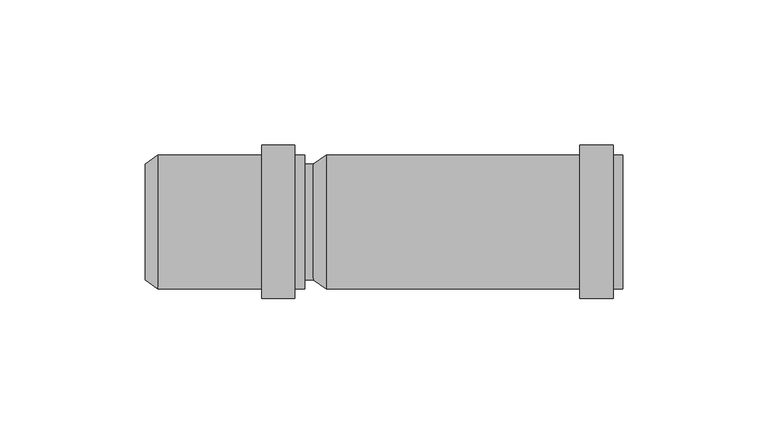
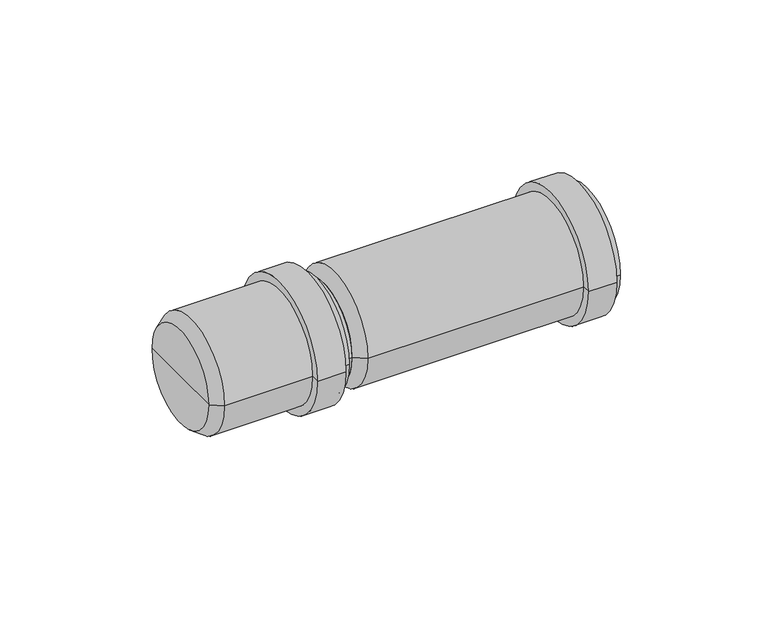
"""IFC4 building model written with IfcOpenShell, lengths in millimetres: pipe fitting geometry, pf_HTL : pf_HTL."""

import ifcopenshell
import ifcopenshell.guid

model = None  # the IFC model being written
_history = None  # IfcOwnerHistory: only IFC2X3 demands one
_inside = {}  # id of a spatial element -> (the spatial element, [elements in it])
_under = {}  # id of a project, library or spatial element -> (it, [spatial elements below it])
_declared = {}  # id of a project -> (the project, [libraries it declares])
_typed = {}  # id of a type object -> (the type object, [elements of that type])
_made_of = {}  # id of a material, layer set ... -> (it, [elements and type objects made of it])


def new_model(schema):
    """Start an empty IFC model of exactly this schema.

    Asked for "IFC4X3", IfcOpenShell would pick the latest addendum, in which some entities
    have other attributes; the version numbers below select the first issue.
    IFC2X3 requires an IfcOwnerHistory on every rooted entity: one is made here for all.
    """
    global model, _history
    if schema == "IFC4X3":
        model = ifcopenshell.file(schema_version=(4, 3, 0, 0))
    else:
        model = ifcopenshell.file(schema=schema)
    _inside.clear()
    _under.clear()
    _declared.clear()
    _typed.clear()
    _made_of.clear()
    _history = None
    if model.schema == "IFC2X3":
        org = make("IfcOrganization", Name="unknown")
        user = make(
            "IfcPersonAndOrganization",
            ThePerson=make("IfcPerson", FamilyName="unknown"),
            TheOrganization=org,
        )
        app = make(
            "IfcApplication",
            ApplicationDeveloper=org,
            Version="unknown",
            ApplicationFullName="unknown",
            ApplicationIdentifier="unknown",
        )
        _history = make(
            "IfcOwnerHistory",
            OwningUser=user,
            OwningApplication=app,
            ChangeAction="ADDED",
            CreationDate=0,
        )
    return model


def make(cls, **values):
    """One entity of the class cls with the attributes given. An attribute that is None is left unset."""
    return model.create_entity(
        cls, **{name: value for name, value in values.items() if value is not None}
    )


def rooted(cls, **values):
    """An entity with a GlobalId (a new one), such as an element, a storey or a relation."""
    return make(cls, GlobalId=ifcopenshell.guid.new(), OwnerHistory=_history, **values)


def si_unit(unit_type, name, prefix=None):
    """IfcSIUnit, for example si_unit("LENGTHUNIT", "METRE", prefix="MILLI")."""
    return make("IfcSIUnit", UnitType=unit_type, Prefix=prefix, Name=name)


def assignment(units):
    """IfcUnitAssignment: the units of a project."""
    return None if units is None else make("IfcUnitAssignment", Units=units)


def point(xyz):
    """IfcCartesianPoint."""
    return None if xyz is None else make("IfcCartesianPoint", Coordinates=xyz)


def direction(xyz):
    """IfcDirection."""
    return None if xyz is None else make("IfcDirection", DirectionRatios=xyz)


def frame(location, z_axis=None, x_axis=None):
    """IfcAxis2Placement3D, a coordinate frame: its origin and axes. An axis left out is left unset."""
    return make(
        "IfcAxis2Placement3D",
        Location=point(location),
        Axis=direction(z_axis),
        RefDirection=direction(x_axis),
    )


def frame_2d(location, x_axis=None):
    """IfcAxis2Placement2D, a coordinate frame in the plane: its origin and x axis."""
    return make(
        "IfcAxis2Placement2D", Location=point(location), RefDirection=direction(x_axis)
    )


def origin():
    """The frame at (0, 0, 0) with its axes left unset."""
    return frame((0.0, 0.0, 0.0))


def origin_2d():
    """The frame at (0, 0) in the plane with its x axis left unset."""
    return frame_2d((0.0, 0.0))


def place(relative_to, where):
    """IfcLocalPlacement: puts the frame where relative to a parent placement (None: the world)."""
    return make(
        "IfcLocalPlacement", PlacementRelTo=relative_to, RelativePlacement=where
    )


def context(
    kind, dimensions, precision=None, world=None, true_north=None, identifier=None
):
    """IfcGeometricRepresentationContext, for example the 3D "Model" context."""
    return make(
        "IfcGeometricRepresentationContext",
        ContextIdentifier=identifier,
        ContextType=kind,
        CoordinateSpaceDimension=dimensions,
        Precision=precision,
        WorldCoordinateSystem=world,
        TrueNorth=true_north,
    )


def project(units=None, contexts=None):
    """IfcProject with its units and contexts."""
    return rooted(
        "IfcProject",
        Name="project",
        RepresentationContexts=contexts,
        UnitsInContext=assignment(units),
    )


def spatial(cls, under=None, at=None, **own):
    """A site, building, storey or space (cls), placed at a placement, below another one or the project."""
    s = rooted(cls, ObjectPlacement=at, **own)
    if under is not None:
        _under.setdefault(under.id(), (under, []))[1].append(s)
    return s


def polyline(points):
    """IfcPolyline through the points."""
    return make("IfcPolyline", Points=[point(p) for p in points])


def circle_curve(where, radius):
    """IfcCircle in the frame where."""
    return make("IfcCircle", Position=where, Radius=radius)


def trimmed(basis, trim1, trim2, sense, master):
    """IfcTrimmedCurve: the piece of a basis curve between two trims."""
    return make(
        "IfcTrimmedCurve",
        BasisCurve=basis,
        Trim1=trim1,
        Trim2=trim2,
        SenseAgreement=sense,
        MasterRepresentation=master,
    )


def segment(curve, same_sense, transition):
    """IfcCompositeCurveSegment."""
    return make(
        "IfcCompositeCurveSegment",
        Transition=transition,
        SameSense=same_sense,
        ParentCurve=curve,
    )


def composite_curve(segments, self_intersect=None):
    """IfcCompositeCurve: segments joined end to end."""
    return make("IfcCompositeCurve", Segments=segments, SelfIntersect=self_intersect)


def outline(outer, holes=None, kind="AREA"):
    """IfcArbitraryClosedProfileDef: a profile drawn as a closed curve; with holes, ...WithVoids."""
    if holes is None:
        return make("IfcArbitraryClosedProfileDef", ProfileType=kind, OuterCurve=outer)
    return make(
        "IfcArbitraryProfileDefWithVoids",
        ProfileType=kind,
        OuterCurve=outer,
        InnerCurves=holes,
    )


def extrude(swept, where, along, depth):
    """IfcExtrudedAreaSolid: the profile swept, set in the frame where, extruded along a direction by depth."""
    return make(
        "IfcExtrudedAreaSolid",
        SweptArea=swept,
        Position=where,
        ExtrudedDirection=direction(along),
        Depth=depth,
    )


def shape(context_of_items, identifier, shape_type, items):
    """IfcShapeRepresentation: the items that make up one representation, for example the "Body"."""
    return make(
        "IfcShapeRepresentation",
        ContextOfItems=context_of_items,
        RepresentationIdentifier=identifier,
        RepresentationType=shape_type,
        Items=items,
    )


def source(mapping_origin, context_of_items, identifier, shape_type, items):
    """IfcRepresentationMap: a shape defined once, which mapped items show again and again."""
    return make(
        "IfcRepresentationMap",
        MappingOrigin=mapping_origin,
        MappedRepresentation=shape(context_of_items, identifier, shape_type, items),
    )


def transform(
    local_origin,
    x_axis=None,
    y_axis=None,
    z_axis=None,
    scale=None,
    scale2=None,
    scale3=None,
    uniform=True,
):
    """IfcCartesianTransformationOperator3D, or its non-uniform kind. x_axis, y_axis, z_axis: its Axis1, 2, 3."""
    if uniform:
        return make(
            "IfcCartesianTransformationOperator3D",
            Axis1=direction(x_axis),
            Axis2=direction(y_axis),
            LocalOrigin=point(local_origin),
            Scale=scale,
            Axis3=direction(z_axis),
        )
    return make(
        "IfcCartesianTransformationOperator3DnonUniform",
        Axis1=direction(x_axis),
        Axis2=direction(y_axis),
        LocalOrigin=point(local_origin),
        Scale=scale,
        Axis3=direction(z_axis),
        Scale2=scale2,
        Scale3=scale3,
    )


def mapped(mapping_source, mapping_target):
    """IfcMappedItem: shows the shape of a source again, moved by a transform."""
    return make(
        "IfcMappedItem", MappingSource=mapping_source, MappingTarget=mapping_target
    )


def made_of(thing, what):
    """Note that an element or type object is made of a material, layer set ...; save() writes the relation."""
    if what is not None:
        _made_of.setdefault(what.id(), (what, []))[1].append(thing)
    return thing


def element(
    cls,
    number,
    at=None,
    inside=None,
    cuts=None,
    type_object=None,
    material=None,
    context=None,
    identifier="Body",
    shape_type=None,
    held_by="IfcProductDefinitionShape",
    body=None,
    shapes=None,
    **own,
):
    """One element of the class cls, such as IfcWall. Its Tag is "e" and its number.

    at: its placement. inside: the storey or other place that contains it. cuts: it is an
    opening in that element (IfcRelVoidsElement). A single representation is given by context,
    identifier, shape_type and body (its items); several are given by shapes. held_by: the class
    of the entity that holds the representations. save() writes the other relations.
    """
    e = rooted(cls, Tag="e%d" % number, ObjectPlacement=at, **own)
    if body is not None:
        shapes = [shape(context, identifier, shape_type, body)]
    if shapes is not None:
        e.Representation = make(held_by, Representations=shapes)
    if inside is not None:
        _inside.setdefault(inside.id(), (inside, []))[1].append(e)
    if cuts is not None:
        rooted(
            "IfcRelVoidsElement", RelatingBuildingElement=cuts, RelatedOpeningElement=e
        )
    if type_object is not None:
        _typed.setdefault(type_object.id(), (type_object, []))[1].append(e)
    return made_of(e, material)


def aggregate(whole, parts):
    """IfcRelAggregates: a whole, such as a stair, and the parts it consists of."""
    return rooted("IfcRelAggregates", RelatingObject=whole, RelatedObjects=parts)


def save(model, path):
    """Write the relations noted so far, then the file.

    IfcRelAggregates (storeys below a building ...), IfcRelContainedInSpatialStructure (elements
    in a storey), IfcRelDefinesByType, IfcRelAssociatesMaterial and IfcRelDeclares: one each for
    every whole, place, type object, material and project.
    """
    for whole, parts in _under.values():
        aggregate(whole, parts)
    for where, things in _inside.values():
        rooted(
            "IfcRelContainedInSpatialStructure",
            RelatedElements=things,
            RelatingStructure=where,
        )
    for kind, things in _typed.values():
        rooted("IfcRelDefinesByType", RelatedObjects=things, RelatingType=kind)
    for what, things in _made_of.values():
        rooted("IfcRelAssociatesMaterial", RelatedObjects=things, RelatingMaterial=what)
    for by, libraries in _declared.values():
        rooted("IfcRelDeclares", RelatingContext=by, RelatedDefinitions=libraries)
    model.write(path)


def plane_surface(at):
    """IfcPlane: the flat surface through the origin of the frame at, square to its z axis."""
    return make("IfcPlane", Position=at)


def cylinder_surface(at, radius):
    """IfcCylindricalSurface: all points at the distance radius from the z axis of the frame at."""
    return make("IfcCylindricalSurface", Position=at, Radius=radius)


def revolved_surface(curve, axis_point, axis_direction):
    """IfcSurfaceOfRevolution: the curve turned about the line through axis_point along axis_direction."""
    return make(
        "IfcSurfaceOfRevolution",
        SweptCurve=make("IfcArbitraryOpenProfileDef", ProfileType="CURVE", Curve=curve),
        AxisPosition=make("IfcAxis1Placement", Location=point(axis_point), Axis=direction(axis_direction)),
    )


def advanced_brep(points, edges, surfaces, faces):
    """IfcAdvancedBrep: a solid bounded by faces that lie on surfaces and meet in shared edges.

    An edge is (start, end): straight between two places in points (the first is 0);
    or (start, end, curve); or (start, end, curve, False) where it runs against its curve.
    A face is (place in surfaces, loops), or (place, loops, False) where it looks against
    its surface's normal. A loop lists edges by number (the first is 1), with a minus sign
    where the edge is run from its end to its start. The first loop is the outer one.
    """
    corners = [point(p) for p in points]
    vertices = [make("IfcVertexPoint", VertexGeometry=c) for c in corners]
    made = []
    for start, end, *more in edges:
        made.append(
            make(
                "IfcEdgeCurve",
                EdgeStart=vertices[start],
                EdgeEnd=vertices[end],
                EdgeGeometry=more[0] if more else make("IfcPolyline", Points=[corners[start], corners[end]]),
                SameSense=more[1] if len(more) > 1 else True,
            )
        )
    hull = []
    for where, loops, *sense in faces:
        bounds = []
        for j, loop in enumerate(loops):
            ring = [make("IfcOrientedEdge", EdgeElement=made[abs(k) - 1], Orientation=k > 0) for k in loop]
            bounds.append(
                make(
                    "IfcFaceOuterBound" if j == 0 else "IfcFaceBound",
                    Bound=make("IfcEdgeLoop", EdgeList=ring),
                    Orientation=True,
                )
            )
        hull.append(make("IfcAdvancedFace", Bounds=bounds, FaceSurface=surfaces[where], SameSense=sense[0] if sense else True))
    return make("IfcAdvancedBrep", Outer=make("IfcClosedShell", CfsFaces=hull))


def pipe_fitting_f05a0327(model_context):
    return source(origin(), model_context, "Body", "SolidModel", [
        advanced_brep(
        [(0.0, -20.0, 0.0), (0.0, 20.0, 0.0), (4.4, 23.1, 0.0), (4.4, -23.1, 0.0), (0.0, 0.0, 0.0), (106.6, -23.1, 0.0), (106.6, 23.1, 0.0), (106.6, 20.0, 0.0), (106.6, -20.0, 0.0), (103.2, -23.1, 0.0), (103.2, 23.1, 0.0), (103.2, -26.5, 0.0), (103.2, 26.5, 0.0), (91.8, -26.5, 0.0), (91.8, 26.5, 0.0), (91.8, -23.1, 0.0), (91.8, 23.1, 0.0), (4.4, -20.0, 0.0), (4.4, 20.0, 0.0), (4.4, 0.0, 0.0)],
        [
            (0, 1, circle_curve(frame((0.0, 0.0, 0.0), z_axis=(1.0, 0.0, 0.0), x_axis=(0.0, 1.0, 0.0)), 20.0)),
            (1, 2),
            (2, 3, circle_curve(frame((4.4, 0.0, 0.0), z_axis=(-1.0, 0.0, 0.0), x_axis=(0.0, 1.0, 0.0)), 23.1)),
            (3, 0),
            (1, 0, circle_curve(frame((0.0, 0.0, 0.0), z_axis=(1.0, 0.0, 0.0), x_axis=(0.0, 1.0, 0.0)), 20.0)),
            (3, 2, circle_curve(frame((4.4, 0.0, 0.0), z_axis=(-1.0, 0.0, 0.0), x_axis=(0.0, 1.0, 0.0)), 23.1)),
            (4, 1),
            (0, 4),
            (5, 6, circle_curve(frame((106.6, 0.0, 0.0), z_axis=(1.0, 0.0, 0.0), x_axis=(0.0, 1.0, 0.0)), 23.1)),
            (6, 7),
            (7, 8, circle_curve(frame((106.6, 0.0, 0.0), z_axis=(-1.0, 0.0, 0.0), x_axis=(0.0, 1.0, 0.0)), 20.0)),
            (8, 5),
            (6, 5, circle_curve(frame((106.6, 0.0, 0.0), z_axis=(1.0, 0.0, 0.0), x_axis=(0.0, 1.0, 0.0)), 23.1)),
            (8, 7, circle_curve(frame((106.6, 0.0, 0.0), z_axis=(-1.0, 0.0, 0.0), x_axis=(0.0, 1.0, 0.0)), 20.0)),
            (9, 10, circle_curve(frame((103.2, 0.0, 0.0), z_axis=(1.0, 0.0, 0.0), x_axis=(0.0, 1.0, 0.0)), 23.1)),
            (10, 6),
            (5, 9),
            (10, 9, circle_curve(frame((103.2, 0.0, 0.0), z_axis=(1.0, 0.0, 0.0), x_axis=(0.0, 1.0, 0.0)), 23.1)),
            (11, 12, circle_curve(frame((103.2, 0.0, 0.0), z_axis=(1.0, 0.0, 0.0), x_axis=(0.0, 1.0, 0.0)), 26.5)),
            (12, 10),
            (9, 11),
            (12, 11, circle_curve(frame((103.2, 0.0, 0.0), z_axis=(1.0, 0.0, 0.0), x_axis=(0.0, 1.0, 0.0)), 26.5)),
            (13, 14, circle_curve(frame((91.8, 0.0, 0.0), z_axis=(1.0, 0.0, 0.0), x_axis=(0.0, 1.0, 0.0)), 26.5)),
            (14, 12),
            (11, 13),
            (14, 13, circle_curve(frame((91.8, 0.0, 0.0), z_axis=(1.0, 0.0, 0.0), x_axis=(0.0, 1.0, 0.0)), 26.5)),
            (15, 16, circle_curve(frame((91.8, 0.0, 0.0), z_axis=(1.0, 0.0, 0.0), x_axis=(0.0, 1.0, 0.0)), 23.1)),
            (16, 14),
            (13, 15),
            (16, 15, circle_curve(frame((91.8, 0.0, 0.0), z_axis=(1.0, 0.0, 0.0), x_axis=(0.0, 1.0, 0.0)), 23.1)),
            (2, 16),
            (15, 3),
            (17, 18, circle_curve(frame((4.4, 0.0, 0.0), z_axis=(1.0, 0.0, 0.0), x_axis=(0.0, 1.0, 0.0)), 20.0)),
            (18, 19),
            (19, 17),
            (18, 17, circle_curve(frame((4.4, 0.0, 0.0), z_axis=(1.0, 0.0, 0.0), x_axis=(0.0, 1.0, 0.0)), 20.0)),
            (7, 18),
            (17, 8),
        ],
        [
            revolved_surface(polyline([(4.4, 23.1, 0.0), (0.0, 20.0, 0.0)]), (0.0, 0.0, 0.0), (-1.0, 0.0, 0.0)),
            plane_surface(frame((0.0, 0.0, 0.0), z_axis=(-1.0, 0.0, 0.0), x_axis=(0.0, 1.0, 0.0))),
            plane_surface(frame((106.6, 0.0, 0.0), z_axis=(1.0, 0.0, 0.0), x_axis=(0.0, 1.0, 0.0))),
            cylinder_surface(frame((0.0, 0.0, 0.0), z_axis=(-1.0, 0.0, 0.0), x_axis=(0.0, 1.0, 0.0)), 23.1),
            plane_surface(frame((103.2, 0.0, 0.0), z_axis=(1.0, 0.0, 0.0), x_axis=(0.0, 1.0, 0.0))),
            cylinder_surface(frame((0.0, 0.0, 0.0), z_axis=(-1.0, 0.0, 0.0), x_axis=(0.0, 1.0, 0.0)), 26.5),
            plane_surface(frame((91.8, 0.0, 0.0), z_axis=(-1.0, 0.0, 0.0), x_axis=(0.0, 1.0, 0.0))),
            plane_surface(frame((4.4, 0.0, 0.0), z_axis=(1.0, 0.0, 0.0), x_axis=(0.0, 1.0, 0.0))),
            revolved_surface(polyline([(4.4, 20.0, 0.0), (106.6, 20.0, 0.0)]), (0.0, 0.0, 0.0), (-1.0, 0.0, 0.0)),
        ],
        [
            (0, [[1, 2, 3, 4]]),
            (0, [[5, -4, 6, -2]]),
            (1, [[7, -1, 8]]),
            (1, [[-8, -5, -7]]),
            (2, [[9, 10, 11, 12]]),
            (2, [[13, -12, 14, -10]]),
            (3, [[15, 16, -9, 17]]),
            (3, [[18, -17, -13, -16]]),
            (4, [[19, 20, -15, 21]]),
            (4, [[22, -21, -18, -20]]),
            (5, [[23, 24, -19, 25]]),
            (5, [[26, -25, -22, -24]]),
            (6, [[27, 28, -23, 29]]),
            (6, [[30, -29, -26, -28]]),
            (3, [[-3, 31, -27, 32]]),
            (3, [[-6, -32, -30, -31]]),
            (7, [[33, 34, 35]]),
            (7, [[36, -35, -34]]),
            (8, [[-11, 37, -33, 38]]),
            (8, [[-14, -38, -36, -37]]),
        ],
    ),
        advanced_brep(
        [(-58.0, -20.0, 0.0), (-58.0, 20.0, 0.0), (-53.6, 23.1, 0.0), (-53.6, -23.1, 0.0), (-58.0, 0.0, 0.0), (-3.0, -23.1, 0.0), (-3.0, 23.1, 0.0), (-3.0, 20.0, 0.0), (-3.0, -20.0, 0.0), (-6.4, -23.1, 0.0), (-6.4, 23.1, 0.0), (-6.4, -26.5, 0.0), (-6.4, 26.5, 0.0), (-17.8, -26.5, 0.0), (-17.8, 26.5, 0.0), (-17.8, -23.1, 0.0), (-17.8, 23.1, 0.0), (-53.6, -20.0, 0.0), (-53.6, 20.0, 0.0), (-53.6, 0.0, 0.0)],
        [
            (0, 1, circle_curve(frame((-58.0, 0.0, 0.0), z_axis=(1.0, 0.0, 0.0), x_axis=(0.0, 1.0, 0.0)), 20.0)),
            (1, 2),
            (2, 3, circle_curve(frame((-53.6, 0.0, 0.0), z_axis=(-1.0, 0.0, 0.0), x_axis=(0.0, 1.0, 0.0)), 23.1)),
            (3, 0),
            (1, 0, circle_curve(frame((-58.0, 0.0, 0.0), z_axis=(1.0, 0.0, 0.0), x_axis=(0.0, 1.0, 0.0)), 20.0)),
            (3, 2, circle_curve(frame((-53.6, 0.0, 0.0), z_axis=(-1.0, 0.0, 0.0), x_axis=(0.0, 1.0, 0.0)), 23.1)),
            (4, 1),
            (0, 4),
            (5, 6, circle_curve(frame((-3.0, 0.0, 0.0), z_axis=(1.0, 0.0, 0.0), x_axis=(0.0, 1.0, 0.0)), 23.1)),
            (6, 7),
            (7, 8, circle_curve(frame((-3.0, 0.0, 0.0), z_axis=(-1.0, 0.0, 0.0), x_axis=(0.0, 1.0, 0.0)), 20.0)),
            (8, 5),
            (6, 5, circle_curve(frame((-3.0, 0.0, 0.0), z_axis=(1.0, 0.0, 0.0), x_axis=(0.0, 1.0, 0.0)), 23.1)),
            (8, 7, circle_curve(frame((-3.0, 0.0, 0.0), z_axis=(-1.0, 0.0, 0.0), x_axis=(0.0, 1.0, 0.0)), 20.0)),
            (9, 10, circle_curve(frame((-6.4, 0.0, 0.0), z_axis=(1.0, 0.0, 0.0), x_axis=(0.0, 1.0, 0.0)), 23.1)),
            (10, 6),
            (5, 9),
            (10, 9, circle_curve(frame((-6.4, 0.0, 0.0), z_axis=(1.0, 0.0, 0.0), x_axis=(0.0, 1.0, 0.0)), 23.1)),
            (11, 12, circle_curve(frame((-6.4, 0.0, 0.0), z_axis=(1.0, 0.0, 0.0), x_axis=(0.0, 1.0, 0.0)), 26.5)),
            (12, 10),
            (9, 11),
            (12, 11, circle_curve(frame((-6.4, 0.0, 0.0), z_axis=(1.0, 0.0, 0.0), x_axis=(0.0, 1.0, 0.0)), 26.5)),
            (13, 14, circle_curve(frame((-17.8, 0.0, 0.0), z_axis=(1.0, 0.0, 0.0), x_axis=(0.0, 1.0, 0.0)), 26.5)),
            (14, 12),
            (11, 13),
            (14, 13, circle_curve(frame((-17.8, 0.0, 0.0), z_axis=(1.0, 0.0, 0.0), x_axis=(0.0, 1.0, 0.0)), 26.5)),
            (15, 16, circle_curve(frame((-17.8, 0.0, 0.0), z_axis=(1.0, 0.0, 0.0), x_axis=(0.0, 1.0, 0.0)), 23.1)),
            (16, 14),
            (13, 15),
            (16, 15, circle_curve(frame((-17.8, 0.0, 0.0), z_axis=(1.0, 0.0, 0.0), x_axis=(0.0, 1.0, 0.0)), 23.1)),
            (2, 16),
            (15, 3),
            (17, 18, circle_curve(frame((-53.6, 0.0, 0.0), z_axis=(1.0, 0.0, 0.0), x_axis=(0.0, 1.0, 0.0)), 20.0)),
            (18, 19),
            (19, 17),
            (18, 17, circle_curve(frame((-53.6, 0.0, 0.0), z_axis=(1.0, 0.0, 0.0), x_axis=(0.0, 1.0, 0.0)), 20.0)),
            (7, 18),
            (17, 8),
        ],
        [
            revolved_surface(polyline([(-53.6, 23.1, 0.0), (-58.0, 20.0, 0.0)]), (-58.0, 0.0, 0.0), (-1.0, 0.0, 0.0)),
            plane_surface(frame((-58.0, 0.0, 0.0), z_axis=(-1.0, 0.0, 0.0), x_axis=(0.0, 1.0, 0.0))),
            plane_surface(frame((-3.0, 0.0, 0.0), z_axis=(1.0, 0.0, 0.0), x_axis=(0.0, 1.0, 0.0))),
            cylinder_surface(frame((-58.0, 0.0, 0.0), z_axis=(-1.0, 0.0, 0.0), x_axis=(0.0, 1.0, 0.0)), 23.1),
            plane_surface(frame((-6.4, 0.0, 0.0), z_axis=(1.0, 0.0, 0.0), x_axis=(0.0, 1.0, 0.0))),
            cylinder_surface(frame((-58.0, 0.0, 0.0), z_axis=(-1.0, 0.0, 0.0), x_axis=(0.0, 1.0, 0.0)), 26.5),
            plane_surface(frame((-17.8, 0.0, 0.0), z_axis=(-1.0, 0.0, 0.0), x_axis=(0.0, 1.0, 0.0))),
            plane_surface(frame((-53.6, 0.0, 0.0), z_axis=(1.0, 0.0, 0.0), x_axis=(0.0, 1.0, 0.0))),
            revolved_surface(polyline([(-53.6, 20.0, 0.0), (-3.0, 20.0, 0.0)]), (-58.0, 0.0, 0.0), (-1.0, 0.0, 0.0)),
        ],
        [
            (0, [[1, 2, 3, 4]]),
            (0, [[5, -4, 6, -2]]),
            (1, [[7, -1, 8]]),
            (1, [[-8, -5, -7]]),
            (2, [[9, 10, 11, 12]]),
            (2, [[13, -12, 14, -10]]),
            (3, [[15, 16, -9, 17]]),
            (3, [[18, -17, -13, -16]]),
            (4, [[19, 20, -15, 21]]),
            (4, [[22, -21, -18, -20]]),
            (5, [[23, 24, -19, 25]]),
            (5, [[26, -25, -22, -24]]),
            (6, [[27, 28, -23, 29]]),
            (6, [[30, -29, -26, -28]]),
            (3, [[-3, 31, -27, 32]]),
            (3, [[-6, -32, -30, -31]]),
            (7, [[33, 34, 35]]),
            (7, [[36, -35, -34]]),
            (8, [[-11, 37, -33, 38]]),
            (8, [[-14, -38, -36, -37]]),
        ],
    ),
        extrude(outline(composite_curve([segment(trimmed(circle_curve(origin_2d(), 20.0), [point((-20.0, 0.0))], [point((20.0, 0.0))], False, "CARTESIAN"), True, "CONTINUOUS"), segment(trimmed(circle_curve(origin_2d(), 20.0), [point((20.0, 0.0))], [point((-20.0, 0.0))], False, "CARTESIAN"), True, "CONTINUOUS")], self_intersect=False)), frame((-3.0, 0.0, 0.0), z_axis=(1.0, 0.0, 0.0), x_axis=(0.0, 1.0, 0.0)), (0.0, 0.0, 1.0), 3.0),
    ])


if __name__ == "__main__":
    model = new_model("IFC4")
    model_context = context("Model", 3, world=origin())
    ifc_project = project(units=[si_unit("LENGTHUNIT", "METRE", prefix="MILLI")], contexts=[model_context])
    site = spatial("IfcSite", under=ifc_project)
    building = spatial("IfcBuilding", under=site)
    placement = place(None, origin())
    pipe_fitting_shape = pipe_fitting_f05a0327(model_context)
    element("IfcPipeFitting", 1, ObjectType="pf_HTL : pf_HTL", at=placement, inside=building, context=model_context, shape_type="MappedRepresentation", body=[
        mapped(pipe_fitting_shape, transform((0.0, 0.0, 0.0), x_axis=(1.0, 0.0, 0.0), y_axis=(0.0, 1.0, 0.0), z_axis=(0.0, 0.0, 1.0))),
    ])
    save(model, "model.ifc")
